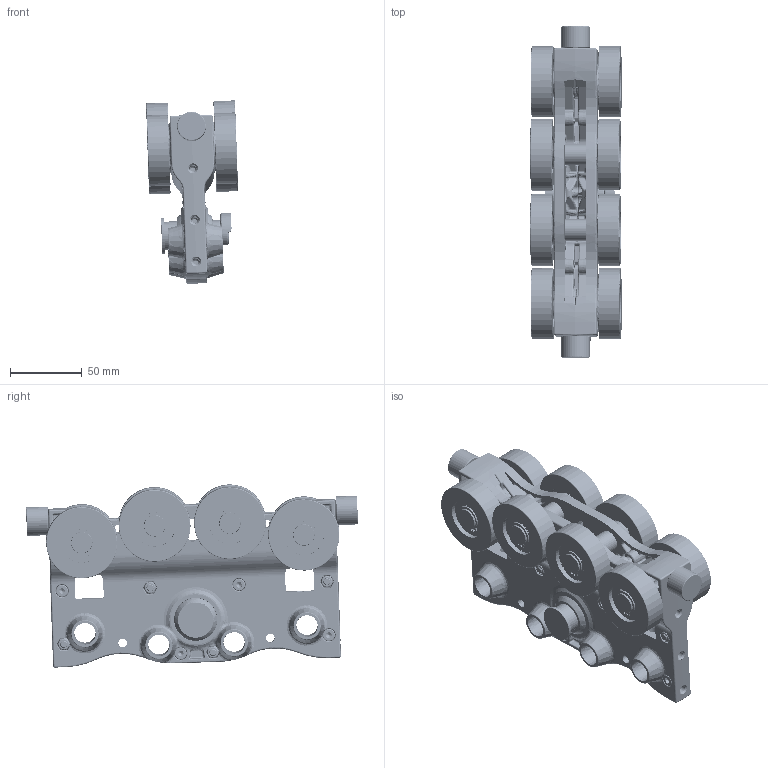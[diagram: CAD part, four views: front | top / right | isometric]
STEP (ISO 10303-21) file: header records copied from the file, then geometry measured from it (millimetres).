
FILE_DESCRIPTION (( 'STEP AP203' ), '1' );
FILE_NAME ('源倛賑陬.STEP', '2022-02-10T03:21:25', ( '' ), ( '' ), 'SwSTEP 2.0', 'SolidWorks 2017', '' );
FILE_SCHEMA (( 'CONFIG_CONTROL_DESIGN' ));
Length unit declared in the file: millimetre
Products named in the file (19): 0022020-00_Laufrolle_PA66_wei_X2_9054_X0_Default; Socket Thin Pilot Cap Screw_DIN_DIN 6912 - M5 x 12 --- 7.8N; 0022015-01_Bandage_Calaumid; Product2; 0021025-00_Gelenkfahrwerk_Alu_600_600_0021025_GEL_Alu_600_600_MSR; 0022016_Gummistopper_TYP-D_20x15_M6x18; 0021020-00_Fahrwerksh_X2_92D6_X0_fte_Gelenk_ALU_MSR_0021020 ALU MSR; N0010008_Sicherungsring_DIN471_15x1; 0022079-01_Gelenkbolzen_20mm; Bandage_PA66; 0022014_WKM_20-25_W300; 0022005-02_Laufrolle_Calaumid_Default; N0010004_KL_Sicherung_16mbo09_Default; 0022001-03_Radbolzen_Fahrwerk; prevailing torque nut thin insert_DIN_DIN EN ISO 10511 - M5 - N; Socket Thin Pilot Cap Screw_DIN_DIN 6912 - M5 x 25 --- 25N; 源倛賑陬; KL_6002ZZ; WEB_0022061_Bremse_Pneum_2fach__X2_9C02_X0_fnend
Assembly tree (54 placements, depth 6):
  源倛賑陬
    Product2
      WEB_0022061_Bremse_Pneum_2fach__X2_9C02_X0_fnend
        0021025-00_Gelenkfahrwerk_Alu_600_600_0021025_GEL_Alu_600_600_MSR
          Socket Thin Pilot Cap Screw_DIN_DIN 6912 - M5 x 25 --- 25N  x2
          Socket Thin Pilot Cap Screw_DIN_DIN 6912 - M5 x 12 --- 7.8N  x8
          prevailing torque nut thin insert_DIN_DIN EN ISO 10511 - M5 - N  x10
          0022014_WKM_20-25_W300
          N0010008_Sicherungsring_DIN471_15x1  x8
          0022020-00_Laufrolle_PA66_wei_X2_9054_X0_Default  x4
            Bandage_PA66
            KL_6002ZZ
          0022005-02_Laufrolle_Calaumid_Default  x4
            KL_6002ZZ
            0022015-01_Bandage_Calaumid
          0022079-01_Gelenkbolzen_20mm
          0022016_Gummistopper_TYP-D_20x15_M6x18  x2
          0022001-03_Radbolzen_Fahrwerk  x4
          N0010004_KL_Sicherung_16mbo09_Default
          0021020-00_Fahrwerksh_X2_92D6_X0_fte_Gelenk_ALU_MSR_0021020 ALU MSR  x2
Bounding box: 64.02 x 231.57 x 127.83 mm (x, y, z)
Volume: 258629.9 mm3; surface area: 269193.2 mm2
Topology: 77 solids, 81 shells, 8911 faces, 21728 edges, 12778 vertices
Faces by surface type: bspline 3939, cylinder 2728, plane 1474, cone 656, torus 112, sphere 2
Entity records: 170599 total; most frequent: CARTESIAN_POINT 88997, ORIENTED_EDGE 19326, DIRECTION 12534, EDGE_CURVE 9668, VERTEX_POINT 5782, AXIS2_PLACEMENT_3D 4992, EDGE_LOOP 4149, ADVANCED_FACE 3996
